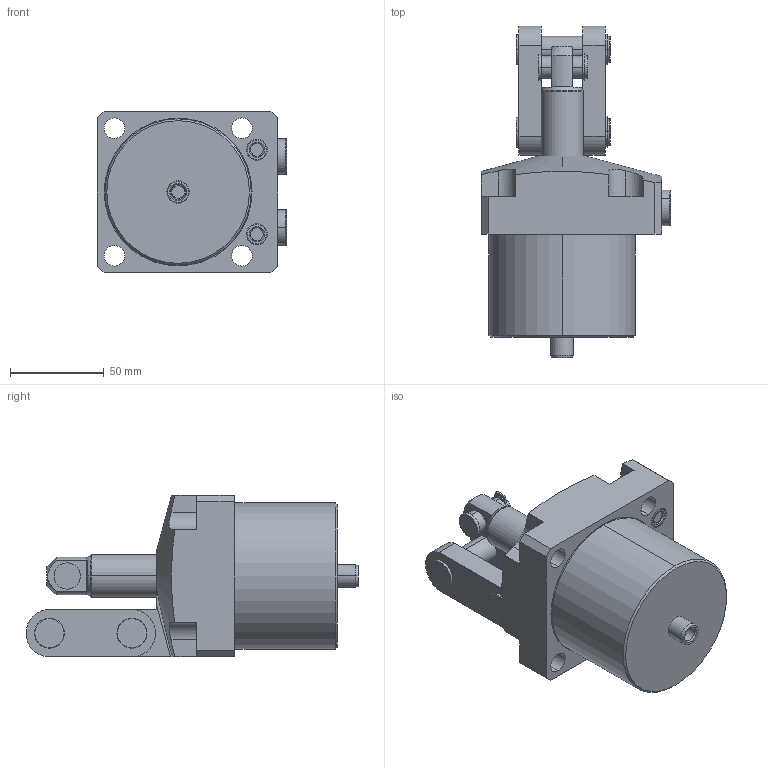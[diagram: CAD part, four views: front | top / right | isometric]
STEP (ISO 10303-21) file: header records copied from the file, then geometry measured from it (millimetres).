
FILE_DESCRIPTION(/* description */ (''),/* implementation_level */ '2;1');
FILE_NAME(/* name */ 'TPC16-RD.stp',/* time_stamp */ '2025-01-05T10:10:43+08:00',/* author */ (''),/* organization */ (''),/* preprocessor_version */ 'ST-DEVELOPER v16.7',/* originating_system */ 'SIEMENS PLM Software NX 12.0',/* authorisation */ '');
FILE_SCHEMA (('AUTOMOTIVE_DESIGN { 1 0 10303 214 3 1 1 1 }'));
Length unit declared in the file: millimetre
Products named in the file (5): TPC16-RD-04; TPC16-RD-03; TPC16-RD-02; TPC16-RD-01; TPC16-RD_stp
Assembly tree (5 placements, depth 2):
  TPC16-RD_stp
    TPC16-RD-01
    TPC16-RD-02
    TPC16-RD-03
    TPC16-RD-04  x2
Bounding box: 100.8 x 177 x 86 mm (x, y, z)
Volume: 606741.5 mm3; surface area: 79064.1 mm2
Topology: 5 solids, 7 shells, 296 faces, 696 edges, 442 vertices
Faces by surface type: cylinder 124, plane 114, torus 34, cone 24
Entity records: 8251 total; most frequent: CARTESIAN_POINT 1536, DIRECTION 1488, ORIENTED_EDGE 1300, EDGE_CURVE 650, AXIS2_PLACEMENT_3D 595, VERTEX_POINT 414, EDGE_LOOP 322, CIRCLE 315
